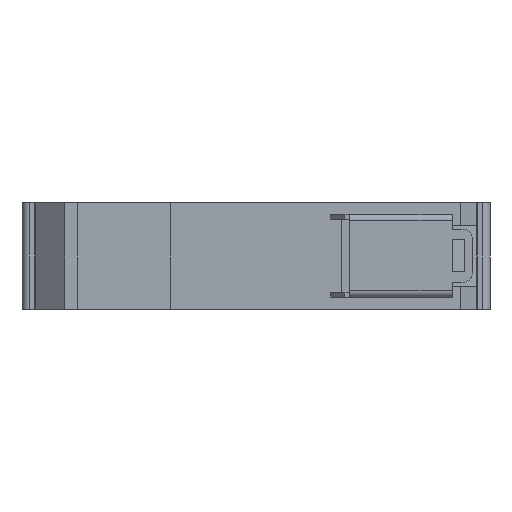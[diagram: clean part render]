
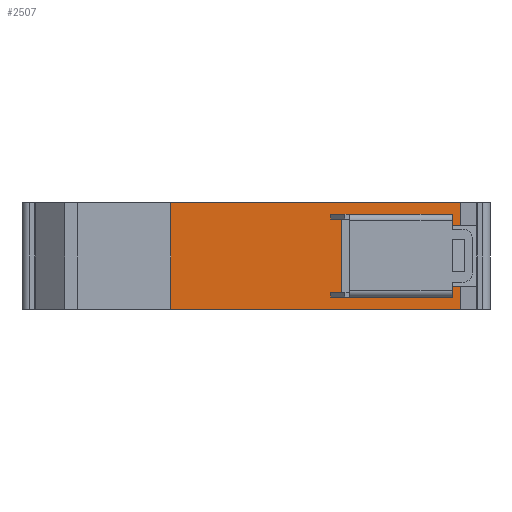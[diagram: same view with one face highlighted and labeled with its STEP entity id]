
A CAD part, front view. The second image highlights one B-rep face of the part: STEP entity #2507.
In plain terms, the highlighted planar face has unit normal (0, -1, 0).
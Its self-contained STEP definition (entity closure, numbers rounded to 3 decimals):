
#6 = CARTESIAN_POINT ( 'NONE',  ( -18., 4., -11.3 ) ) ;
#14 = ORIENTED_EDGE ( 'NONE', *, *, #656, .T. ) ;
#55 = VECTOR ( 'NONE', #573, 1000. ) ;
#81 = DIRECTION ( 'NONE',  ( 0., 0., 1. ) ) ;
#83 = LINE ( 'NONE', #1426, #497 ) ;
#86 = ORIENTED_EDGE ( 'NONE', *, *, #2516, .F. ) ;
#110 = DIRECTION ( 'NONE',  ( -1., 0., 0. ) ) ;
#137 = CARTESIAN_POINT ( 'NONE',  ( 18., 4., 11.3 ) ) ;
#143 = ORIENTED_EDGE ( 'NONE', *, *, #811, .T. ) ;
#174 = CARTESIAN_POINT ( 'NONE',  ( -18., 4., -7.75 ) ) ;
#246 = CARTESIAN_POINT ( 'NONE',  ( -41., 4., -7.75 ) ) ;
#285 = DIRECTION ( 'NONE',  ( 0., 0., -1. ) ) ;
#301 = EDGE_CURVE ( 'NONE', #1991, #528, #2450, .T. ) ;
#312 = LINE ( 'NONE', #2025, #1323 ) ;
#325 = FACE_OUTER_BOUND ( 'NONE', #529, .T. ) ;
#335 = DIRECTION ( 'NONE',  ( 0., 0., 1. ) ) ;
#367 = ORIENTED_EDGE ( 'NONE', *, *, #1120, .T. ) ;
#368 = CARTESIAN_POINT ( 'NONE',  ( 18., 4., -11.3 ) ) ;
#369 = ORIENTED_EDGE ( 'NONE', *, *, #2373, .F. ) ;
#481 = CARTESIAN_POINT ( 'NONE',  ( 18., 4., 11.3 ) ) ;
#497 = VECTOR ( 'NONE', #1650, 1000. ) ;
#528 = VERTEX_POINT ( 'NONE', #2237 ) ;
#529 = EDGE_LOOP ( 'NONE', ( #14, #1673, #625, #369, #2384, #1187, #367, #2092, #143, #86, #2448, #2179 ) ) ;
#573 = DIRECTION ( 'NONE',  ( 1., 0., 0. ) ) ;
#581 = EDGE_CURVE ( 'NONE', #653, #2317, #2575, .T. ) ;
#596 = DIRECTION ( 'NONE',  ( 1., 0., 0. ) ) ;
#619 = VERTEX_POINT ( 'NONE', #1828 ) ;
#625 = ORIENTED_EDGE ( 'NONE', *, *, #1281, .F. ) ;
#651 = DIRECTION ( 'NONE',  ( 0., 1., 0. ) ) ;
#653 = VERTEX_POINT ( 'NONE', #2269 ) ;
#656 = EDGE_CURVE ( 'NONE', #619, #2004, #2625, .T. ) ;
#740 = VERTEX_POINT ( 'NONE', #2279 ) ;
#784 = VERTEX_POINT ( 'NONE', #246 ) ;
#804 = DIRECTION ( 'NONE',  ( -1., 0., 0. ) ) ;
#811 = EDGE_CURVE ( 'NONE', #2317, #784, #1086, .T. ) ;
#845 = VECTOR ( 'NONE', #110, 1000. ) ;
#928 = VECTOR ( 'NONE', #2285, 1000. ) ;
#932 = VECTOR ( 'NONE', #285, 1000. ) ;
#1004 = DIRECTION ( 'NONE',  ( 0., 0., -1. ) ) ;
#1086 = LINE ( 'NONE', #1699, #928 ) ;
#1110 = LINE ( 'NONE', #2447, #2588 ) ;
#1120 = EDGE_CURVE ( 'NONE', #2192, #653, #2199, .T. ) ;
#1187 = ORIENTED_EDGE ( 'NONE', *, *, #2619, .T. ) ;
#1213 = EDGE_CURVE ( 'NONE', #2411, #740, #312, .T. ) ;
#1231 = EDGE_CURVE ( 'NONE', #528, #619, #1110, .T. ) ;
#1281 = EDGE_CURVE ( 'NONE', #1805, #1643, #83, .T. ) ;
#1301 = LINE ( 'NONE', #2582, #1435 ) ;
#1323 = VECTOR ( 'NONE', #804, 1000. ) ;
#1326 = CARTESIAN_POINT ( 'NONE',  ( -41., 4., -6.4 ) ) ;
#1374 = DIRECTION ( 'NONE',  ( 0., 0., -1. ) ) ;
#1392 = CARTESIAN_POINT ( 'NONE',  ( -41., 4., -6.4 ) ) ;
#1426 = CARTESIAN_POINT ( 'NONE',  ( -18., 4., 11.3 ) ) ;
#1435 = VECTOR ( 'NONE', #335, 1000. ) ;
#1497 = CARTESIAN_POINT ( 'NONE',  ( -18., 4., 11.3 ) ) ;
#1625 = DIRECTION ( 'NONE',  ( 0., 0., -1. ) ) ;
#1643 = VERTEX_POINT ( 'NONE', #481 ) ;
#1650 = DIRECTION ( 'NONE',  ( 1., 0., 0. ) ) ;
#1656 = DIRECTION ( 'NONE',  ( 0., 0., 1. ) ) ;
#1673 = ORIENTED_EDGE ( 'NONE', *, *, #2146, .F. ) ;
#1699 = CARTESIAN_POINT ( 'NONE',  ( -18., 4., -7.75 ) ) ;
#1805 = VERTEX_POINT ( 'NONE', #1973 ) ;
#1823 = AXIS2_PLACEMENT_3D ( 'NONE', #1497, #651, #81 ) ;
#1828 = CARTESIAN_POINT ( 'NONE',  ( -43.2, 4., -11.3 ) ) ;
#1843 = CARTESIAN_POINT ( 'NONE',  ( -43.2, 4., -30.385 ) ) ;
#1882 = LINE ( 'NONE', #1896, #932 ) ;
#1896 = CARTESIAN_POINT ( 'NONE',  ( -41., 4., -6.4 ) ) ;
#1973 = CARTESIAN_POINT ( 'NONE',  ( -43.2, 4., 11.3 ) ) ;
#1986 = VECTOR ( 'NONE', #1374, 1000. ) ;
#1991 = VERTEX_POINT ( 'NONE', #1392 ) ;
#2004 = VERTEX_POINT ( 'NONE', #368 ) ;
#2025 = CARTESIAN_POINT ( 'NONE',  ( -41., 4., 6.4 ) ) ;
#2050 = CARTESIAN_POINT ( 'NONE',  ( -41., 4., 6.4 ) ) ;
#2076 = VECTOR ( 'NONE', #596, 1000. ) ;
#2092 = ORIENTED_EDGE ( 'NONE', *, *, #581, .T. ) ;
#2114 = PLANE ( 'NONE',  #1823 ) ;
#2146 = EDGE_CURVE ( 'NONE', #1643, #2004, #2204, .T. ) ;
#2159 = CARTESIAN_POINT ( 'NONE',  ( -41., 4., 7.75 ) ) ;
#2179 = ORIENTED_EDGE ( 'NONE', *, *, #1231, .T. ) ;
#2192 = VERTEX_POINT ( 'NONE', #2159 ) ;
#2199 = LINE ( 'NONE', #2215, #55 ) ;
#2204 = LINE ( 'NONE', #137, #1986 ) ;
#2215 = CARTESIAN_POINT ( 'NONE',  ( -18., 4., 7.75 ) ) ;
#2237 = CARTESIAN_POINT ( 'NONE',  ( -43.2, 4., -6.4 ) ) ;
#2242 = CARTESIAN_POINT ( 'NONE',  ( -18., 4., 11.3 ) ) ;
#2269 = CARTESIAN_POINT ( 'NONE',  ( -18., 4., 7.75 ) ) ;
#2279 = CARTESIAN_POINT ( 'NONE',  ( -43.2, 4., 6.4 ) ) ;
#2285 = DIRECTION ( 'NONE',  ( -1., 0., 0. ) ) ;
#2314 = VECTOR ( 'NONE', #1004, 1000. ) ;
#2317 = VERTEX_POINT ( 'NONE', #174 ) ;
#2338 = VECTOR ( 'NONE', #1656, 1000. ) ;
#2368 = LINE ( 'NONE', #1843, #2338 ) ;
#2373 = EDGE_CURVE ( 'NONE', #740, #1805, #2368, .T. ) ;
#2384 = ORIENTED_EDGE ( 'NONE', *, *, #1213, .F. ) ;
#2411 = VERTEX_POINT ( 'NONE', #2050 ) ;
#2447 = CARTESIAN_POINT ( 'NONE',  ( -43.2, 4., 30.385 ) ) ;
#2448 = ORIENTED_EDGE ( 'NONE', *, *, #301, .T. ) ;
#2450 = LINE ( 'NONE', #1326, #845 ) ;
#2507 = ADVANCED_FACE ( 'NONE', ( #325 ), #2114, .F. ) ;
#2516 = EDGE_CURVE ( 'NONE', #1991, #784, #1882, .T. ) ;
#2575 = LINE ( 'NONE', #2242, #2314 ) ;
#2582 = CARTESIAN_POINT ( 'NONE',  ( -41., 4., 6.4 ) ) ;
#2588 = VECTOR ( 'NONE', #1625, 1000. ) ;
#2619 = EDGE_CURVE ( 'NONE', #2411, #2192, #1301, .T. ) ;
#2625 = LINE ( 'NONE', #6, #2076 ) ;
